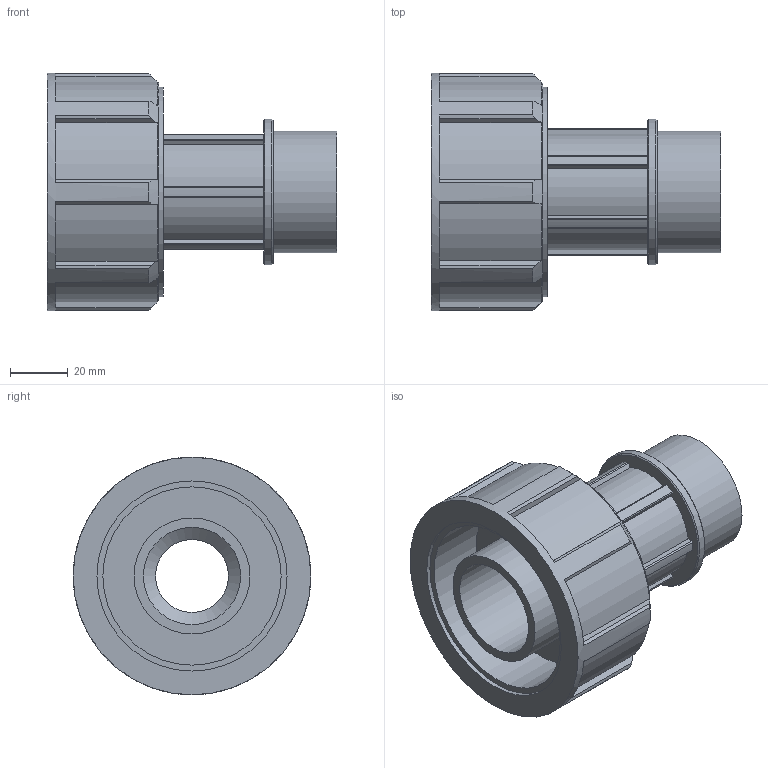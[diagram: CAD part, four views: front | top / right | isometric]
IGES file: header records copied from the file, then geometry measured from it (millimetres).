
Global section: file name: 072500040013_182500040013_0725060400130A.ipt; native system: Autodesk Inventor 2015; preprocessor: unknown; author: KIM; date: 20170608.042146; units: millimetre
Bounding box: 100 x 82 x 82 mm (x, y, z)
Volume: 145281 mm3; surface area: 51056.4 mm2
Topology: 1 solids, 1 shells, 108 faces, 300 edges, 202 vertices
Faces by surface type: plane 74, cylinder 25, revolution 6, cone 3
Full cylindrical faces by diameter (mm): 40 x1, 41.91 x1, 50.292 x1, 72.16 x1, 82 x1
